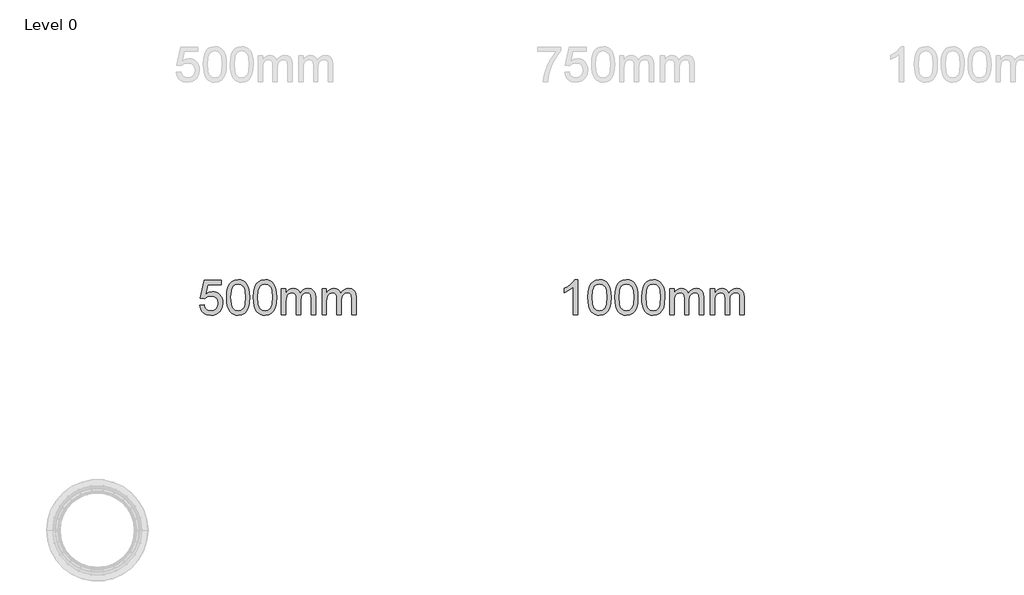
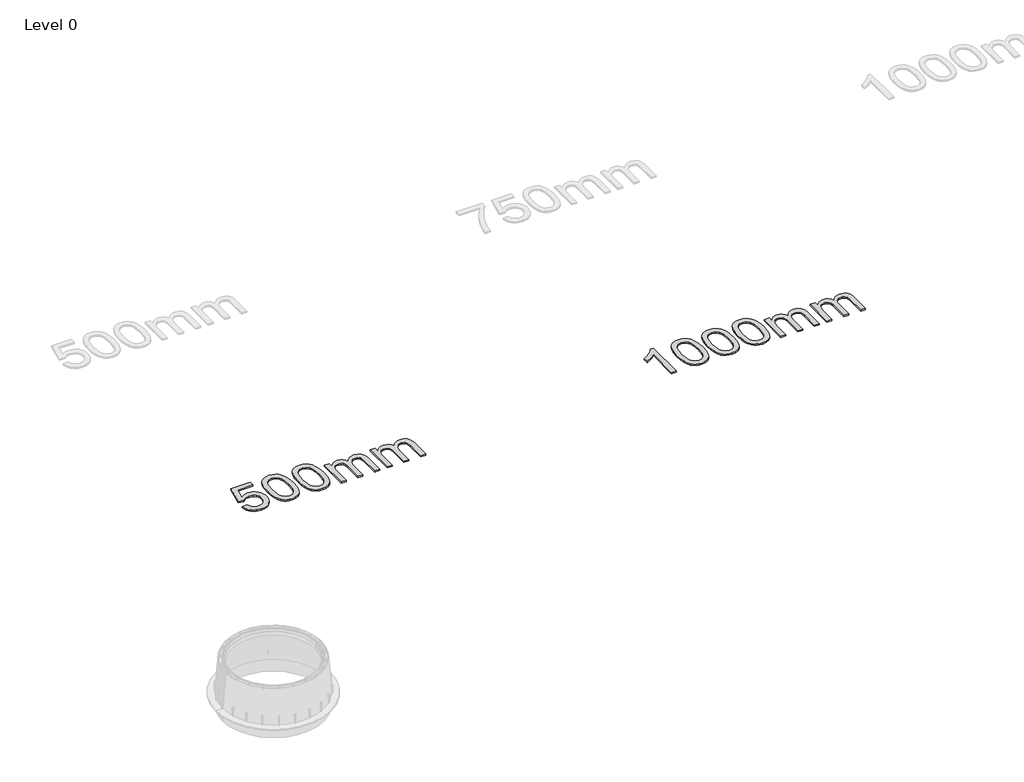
# One storey, part 14 of 25: 2 proxies.
"""IFC4 building model written with IfcOpenShell, lengths in millimetres."""

from ifc_helpers import new_model, si_unit, origin, origin_with_axes, place, context, project, spatial, polyline, outline, extrude, element, save

model = new_model("IFC4")

# Units and contexts
model_context = context("Model", 3, world=origin())
ifc_project = project(units=[si_unit("LENGTHUNIT", "METRE", prefix="MILLI")], contexts=[model_context])

# Site, building, storey
site = spatial("IfcSite", under=ifc_project)
building = spatial("IfcBuilding", under=site)
storey = spatial("IfcBuildingStorey", under=building, Name="Level 0", Elevation=0.0)

# Proxies
placement = place(None, origin())
element("IfcBuildingElementProxy", 1, Name="300mm Arial", ObjectType="300mm Arial", at=placement, inside=storey, context=model_context, shape_type="SweptSolid", body=[
    extrude(outline(polyline([(607.9461268, -120.925676), (645.6172432, -116.2167865), (652.5334247, -138.8323321), (664.5999541, -155.028337), (681.7616492, -164.7680128), (703.9633276, -168.0145714), (730.965866, -163.4988199), (751.1993758, -149.9515654), (763.8361223, -128.9363065), (768.0483711, -102.0165415), (764.1028367, -76.669472), (752.2662336, -57.2820909), (732.4465911, -44.9764381), (704.5519388, -40.8745539), (686.2774007, -42.5116288), (671.4793474, -47.4228534), (650.3261327, -64.4190016), (612.6550164, -59.710112), (645.6172432, 95.6832427), (791.5928188, 95.6832427), (791.5928188, 58.0121264), (676.0778724, 58.0121264), (659.964641, -24.9820517), (686.8752089, -8.6480911), (715.0733638, -3.2034376), (733.4191791, -4.8910962), (750.2704737, -9.9540722), (765.6272478, -18.3923654), (779.4895012, -30.205976), (790.9651202, -44.6729355), (799.1619909, -61.0712754), (804.0801133, -79.4009958), (805.7194875, -99.6620967), (799.8149814, -137.333213), (792.4343489, -154.1270261), (782.1014634, -169.5596758), (766.4480845, -185.364806), (748.1827434, -196.6541847), (727.3054402, -203.427812), (703.8161748, -205.6856877), (666.8164431, -199.8823492), (651.1377723, -192.6281762), (637.3398983, -182.4723338), (625.8596807, -169.92066), (617.1339797, -155.4789924), (607.9461268, -120.925676)])), origin_with_axes(), (0.0, 0.0, 1.0), 10.0),
    extrude(outline(polyline([(838.6817142, -52.7203541), (841.4500262, -4.4818275), (849.7549623, 33.9894321), (863.5137489, 63.282036), (882.6436126, 83.9845953), (907.2825093, 96.290248), (937.5683945, 100.3921323), (960.7817484, 97.9641111), (981.5670811, 90.6800476), (998.9495054, 78.8250503), (1011.9541339, 62.6842278), (1021.7765832, 42.3955357), (1029.6124697, 18.0969299), (1034.7444235, -12.7591724), (1036.4550748, -52.7203541), (1033.714354, -100.6829692), (1025.4921914, -139.0622584), (1011.8161782, -168.3824534), (992.7139056, -189.1677861), (968.0198267, -201.5562123), (937.5683945, -205.6856877), (916.81985, -203.892263), (898.4257502, -198.5119888), (882.3860952, -189.5448652), (868.700885, -176.9908921), (855.5674978, -154.2971715), (846.1865069, -126.0208417), (840.5579124, -92.1619025), (838.6817142, -52.7203541)]), holes=[polyline([(876.3528305, -52.6467777), (880.7674145, -111.9033701), (886.2856444, -132.1713688), (894.0111663, -146.1991691), (913.7296412, -162.5607208), (937.5683945, -168.0145714), (961.4071478, -162.5423267), (981.1256228, -146.1255927), (988.8511447, -132.0747997), (994.3693746, -111.8113996), (998.7839585, -52.6467777), (994.5165274, 5.2762424), (989.1822384, 25.4775625), (981.7142339, 39.8387559), (962.0325472, 57.0004509), (937.1269361, 62.721016), (913.5457002, 57.6810326), (894.5997775, 42.5610826), (886.6167382, 26.9260978), (880.9145673, 5.8464595), (876.3528305, -52.6467777)])]), origin_with_axes(), (0.0, 0.0, 1.0), 10.0),
    extrude(outline(polyline([(1069.4173016, -52.7203541), (1072.1856136, -4.4818275), (1080.4905496, 33.9894321), (1094.2493363, 63.282036), (1113.3792, 83.9845953), (1138.0180966, 96.290248), (1168.3039819, 100.3921323), (1191.5173358, 97.9641111), (1212.3026685, 90.6800476), (1229.6850928, 78.8250503), (1242.6897213, 62.6842278), (1252.5121706, 42.3955357), (1260.3480571, 18.0969299), (1265.4800109, -12.7591724), (1267.1906622, -52.7203541), (1264.4499413, -100.6829692), (1256.2277787, -139.0622584), (1242.5517656, -168.3824534), (1223.449493, -189.1677861), (1198.755414, -201.5562123), (1168.3039819, -205.6856877), (1147.5554374, -203.892263), (1129.1613376, -198.5119888), (1113.1216826, -189.5448652), (1099.4364724, -176.9908921), (1086.3030852, -154.2971715), (1076.9220943, -126.0208417), (1071.2934998, -92.1619025), (1069.4173016, -52.7203541)]), holes=[polyline([(1107.0884179, -52.6467777), (1111.5030018, -111.9033701), (1117.0212318, -132.1713688), (1124.7467537, -146.1991691), (1144.4652286, -162.5607208), (1168.3039819, -168.0145714), (1192.1427352, -162.5423267), (1211.8612101, -146.1255927), (1219.586732, -132.0747997), (1225.104962, -111.8113996), (1229.5195459, -52.6467777), (1225.2521148, 5.2762424), (1219.9178258, 25.4775625), (1212.4498213, 39.8387559), (1192.7681346, 57.0004509), (1167.8625235, 62.721016), (1144.2812876, 57.6810326), (1125.3353649, 42.5610826), (1117.3523256, 26.9260978), (1111.6501546, 5.8464595), (1107.0884179, -52.6467777)])]), origin_with_axes(), (0.0, 0.0, 1.0), 10.0),
    extrude(outline(polyline([(1309.570668, -200.9767982), (1309.570668, 20.3410101), (1347.2417844, 20.3410101), (1347.2417844, -16.0793074), (1358.5725498, 0.6501263), (1373.1406768, 13.7559224), (1390.4495247, 22.2264053), (1410.0024527, 25.0498997), (1430.9533324, 22.171223), (1447.7471454, 13.5351932), (1460.2919215, -0.2879728), (1468.49569, -18.7280578), (1482.2268854, 0.4247986), (1497.8894614, 14.1054103), (1515.4834178, 22.3137773), (1535.0087547, 25.0498997), (1563.3264713, 20.49736), (1584.2681538, 6.8397409), (1597.208403, -16.2908395), (1601.5218194, -49.2622634), (1601.5218194, -200.9767982), (1563.8507031, -200.9767982), (1563.8507031, -65.4490712), (1560.3558242, -33.9951606), (1555.4445995, -25.3223425), (1547.7006835, -18.5073286), (1537.7402785, -14.0927446), (1526.1795868, -12.6212166), (1505.7713331, -16.3920071), (1489.1338699, -27.7043784), (1478.0698189, -47.3308829), (1474.3818019, -76.0440726), (1474.3818019, -200.9767982), (1436.7106856, -200.9767982), (1436.7106856, -61.2552164), (1434.5309848, -39.9548489), (1427.9918823, -24.7613225), (1416.4863729, -15.6562431), (1399.4074513, -12.6212166), (1384.8945066, -14.6445676), (1371.521996, -20.7146205), (1360.4855362, -30.6842226), (1352.9807435, -44.406221), (1348.6765241, -63.4441143), (1347.2417844, -89.3614008), (1347.2417844, -200.9767982), (1309.570668, -200.9767982)])), origin_with_axes(), (0.0, 0.0, 1.0), 10.0),
    extrude(outline(polyline([(1658.0284939, -200.9767982), (1658.0284939, 20.3410101), (1695.6996102, 20.3410101), (1695.6996102, -16.0793074), (1707.0303756, 0.6501263), (1721.5985026, 13.7559224), (1738.9073505, 22.2264053), (1758.4602786, 25.0498997), (1779.4111582, 22.171223), (1796.2049713, 13.5351932), (1808.7497473, -0.2879728), (1816.9535158, -18.7280578), (1830.6847113, 0.4247986), (1846.3472872, 14.1054103), (1863.9412436, 22.3137773), (1883.4665805, 25.0498997), (1911.7842971, 20.49736), (1932.7259797, 6.8397409), (1945.6662289, -16.2908395), (1949.9796452, -49.2622634), (1949.9796452, -200.9767982), (1912.3085289, -200.9767982), (1912.3085289, -65.4490712), (1908.81365, -33.9951606), (1903.9024254, -25.3223425), (1896.1585094, -18.5073286), (1886.1981043, -14.0927446), (1874.6374126, -12.6212166), (1854.229159, -16.3920071), (1837.5916957, -27.7043784), (1826.5276447, -47.3308829), (1822.8396277, -76.0440726), (1822.8396277, -200.9767982), (1785.1685114, -200.9767982), (1785.1685114, -61.2552164), (1782.9888106, -39.9548489), (1776.4497081, -24.7613225), (1764.9441987, -15.6562431), (1747.8652771, -12.6212166), (1733.3523324, -14.6445676), (1719.9798219, -20.7146205), (1708.943362, -30.6842226), (1701.4385693, -44.406221), (1697.13435, -63.4441143), (1695.6996102, -89.3614008), (1695.6996102, -200.9767982), (1658.0284939, -200.9767982)])), origin_with_axes(), (0.0, 0.0, 1.0), 10.0),
])
element("IfcBuildingElementProxy", 2, Name="300mm Arial", ObjectType="300mm Arial", at=placement, inside=storey, context=model_context, shape_type="SweptSolid", body=[
    extrude(outline(polyline([(3849.9277278, -200.9767982), (3812.2566115, -200.9767982), (3812.2566115, 33.8790675), (3776.572058, 8.4584217), (3736.9143789, -10.5610775), (3736.9143789, 25.0498997), (3766.5012884, 41.1447369), (3792.1334664, 60.2929948), (3812.339385, 80.6552632), (3825.6475161, 100.3921323), (3849.9277278, 100.3921323), (3849.9277278, -200.9767982)])), origin_with_axes(), (0.0, 0.0, 1.0), 10.0),
    extrude(outline(polyline([(3939.396629, -52.7203541), (3942.1649411, -4.4818275), (3950.4698771, 33.9894321), (3964.2286637, 63.282036), (3983.3585275, 83.9845953), (4007.9974241, 96.290248), (4038.2833093, 100.3921323), (4061.4966632, 97.9641111), (4082.281996, 90.6800476), (4099.6644202, 78.8250503), (4112.6690488, 62.6842278), (4122.491498, 42.3955357), (4130.3273845, 18.0969299), (4135.4593384, -12.7591724), (4137.1699896, -52.7203541), (4134.4292688, -100.6829692), (4126.2071062, -139.0622584), (4112.531093, -168.3824534), (4093.4288204, -189.1677861), (4068.7347415, -201.5562123), (4038.2833093, -205.6856877), (4017.5347648, -203.892263), (3999.1406651, -198.5119888), (3983.1010101, -189.5448652), (3969.4157998, -176.9908921), (3956.2824126, -154.2971715), (3946.9014217, -126.0208417), (3941.2728272, -92.1619025), (3939.396629, -52.7203541)]), holes=[polyline([(3977.0677453, -52.6467777), (3981.4823293, -111.9033701), (3987.0005592, -132.1713688), (3994.7260811, -146.1991691), (4014.4445561, -162.5607208), (4038.2833093, -168.0145714), (4062.1220626, -162.5423267), (4081.8405376, -146.1255927), (4089.5660595, -132.0747997), (4095.0842894, -111.8113996), (4099.4988733, -52.6467777), (4095.2314422, 5.2762424), (4089.8971533, 25.4775625), (4082.4291488, 39.8387559), (4062.747462, 57.0004509), (4037.841851, 62.721016), (4014.2606151, 57.6810326), (3995.3146923, 42.5610826), (3987.331653, 26.9260978), (3981.6294821, 5.8464595), (3977.0677453, -52.6467777)])]), origin_with_axes(), (0.0, 0.0, 1.0), 10.0),
    extrude(outline(polyline([(4170.1322164, -52.7203541), (4172.9005284, -4.4818275), (4181.2054645, 33.9894321), (4194.9642511, 63.282036), (4214.0941148, 83.9845953), (4238.7330115, 96.290248), (4269.0188967, 100.3921323), (4292.2322506, 97.9641111), (4313.0175833, 90.6800476), (4330.4000076, 78.8250503), (4343.4046361, 62.6842278), (4353.2270854, 42.3955357), (4361.0629719, 18.0969299), (4366.1949257, -12.7591724), (4367.905577, -52.7203541), (4365.1648562, -100.6829692), (4356.9426936, -139.0622584), (4343.2666804, -168.3824534), (4324.1644078, -189.1677861), (4299.4703289, -201.5562123), (4269.0188967, -205.6856877), (4248.2703522, -203.892263), (4229.8762524, -198.5119888), (4213.8365974, -189.5448652), (4200.1513872, -176.9908921), (4187.018, -154.2971715), (4177.6370091, -126.0208417), (4172.0084146, -92.1619025), (4170.1322164, -52.7203541)]), holes=[polyline([(4207.8033327, -52.6467777), (4212.2179167, -111.9033701), (4217.7361466, -132.1713688), (4225.4616685, -146.1991691), (4245.1801434, -162.5607208), (4269.0188967, -168.0145714), (4292.85765, -162.5423267), (4312.576125, -146.1255927), (4320.3016468, -132.0747997), (4325.8198768, -111.8113996), (4330.2344607, -52.6467777), (4325.9670296, 5.2762424), (4320.6327406, 25.4775625), (4313.1647361, 39.8387559), (4293.4830494, 57.0004509), (4268.5774383, 62.721016), (4244.9962024, 57.6810326), (4226.0502797, 42.5610826), (4218.0672404, 26.9260978), (4212.3650695, 5.8464595), (4207.8033327, -52.6467777)])]), origin_with_axes(), (0.0, 0.0, 1.0), 10.0),
    extrude(outline(polyline([(4400.8678038, -52.7203541), (4403.6361158, -4.4818275), (4411.9410518, 33.9894321), (4425.6998385, 63.282036), (4444.8297022, 83.9845953), (4469.4685988, 96.290248), (4499.7544841, 100.3921323), (4522.967838, 97.9641111), (4543.7531707, 90.6800476), (4561.135595, 78.8250503), (4574.1402235, 62.6842278), (4583.9626728, 42.3955357), (4591.7985593, 18.0969299), (4596.9305131, -12.7591724), (4598.6411644, -52.7203541), (4595.9004435, -100.6829692), (4587.6782809, -139.0622584), (4574.0022678, -168.3824534), (4554.8999952, -189.1677861), (4530.2059162, -201.5562123), (4499.7544841, -205.6856877), (4479.0059396, -203.892263), (4460.6118398, -198.5119888), (4444.5721848, -189.5448652), (4430.8869746, -176.9908921), (4417.7535874, -154.2971715), (4408.3725965, -126.0208417), (4402.744002, -92.1619025), (4400.8678038, -52.7203541)]), holes=[polyline([(4438.5389201, -52.6467777), (4442.953504, -111.9033701), (4448.471734, -132.1713688), (4456.1972559, -146.1991691), (4475.9157308, -162.5607208), (4499.7544841, -168.0145714), (4523.5932374, -162.5423267), (4543.3117123, -146.1255927), (4551.0372342, -132.0747997), (4556.5554642, -111.8113996), (4560.9700481, -52.6467777), (4556.7026169, 5.2762424), (4551.368328, 25.4775625), (4543.9003235, 39.8387559), (4524.2186368, 57.0004509), (4499.3130257, 62.721016), (4475.7317898, 57.6810326), (4456.7858671, 42.5610826), (4448.8028278, 26.9260978), (4443.1006568, 5.8464595), (4438.5389201, -52.6467777)])]), origin_with_axes(), (0.0, 0.0, 1.0), 10.0),
    extrude(outline(polyline([(4641.0211702, -200.9767982), (4641.0211702, 20.3410101), (4678.6922866, 20.3410101), (4678.6922866, -16.0793074), (4690.023052, 0.6501263), (4704.591179, 13.7559224), (4721.9000269, 22.2264053), (4741.4529549, 25.0498997), (4762.4038346, 22.171223), (4779.1976476, 13.5351932), (4791.7424237, -0.2879728), (4799.9461922, -18.7280578), (4813.6773876, 0.4247986), (4829.3399636, 14.1054103), (4846.93392, 22.3137773), (4866.4592569, 25.0498997), (4894.7769735, 20.49736), (4915.718656, 6.8397409), (4928.6589052, -16.2908395), (4932.9723216, -49.2622634), (4932.9723216, -200.9767982), (4895.3012053, -200.9767982), (4895.3012053, -65.4490712), (4891.8063264, -33.9951606), (4886.8951017, -25.3223425), (4879.1511857, -18.5073286), (4869.1907807, -14.0927446), (4857.630089, -12.6212166), (4837.2218353, -16.3920071), (4820.5843721, -27.7043784), (4809.5203211, -47.3308829), (4805.8323041, -76.0440726), (4805.8323041, -200.9767982), (4768.1611878, -200.9767982), (4768.1611878, -61.2552164), (4765.981487, -39.9548489), (4759.4423845, -24.7613225), (4747.9368751, -15.6562431), (4730.8579535, -12.6212166), (4716.3450088, -14.6445676), (4702.9724982, -20.7146205), (4691.9360384, -30.6842226), (4684.4312457, -44.406221), (4680.1270263, -63.4441143), (4678.6922866, -89.3614008), (4678.6922866, -200.9767982), (4641.0211702, -200.9767982)])), origin_with_axes(), (0.0, 0.0, 1.0), 10.0),
    extrude(outline(polyline([(4989.4789961, -200.9767982), (4989.4789961, 20.3410101), (5027.1501124, 20.3410101), (5027.1501124, -16.0793074), (5038.4808778, 0.6501263), (5053.0490048, 13.7559224), (5070.3578527, 22.2264053), (5089.9107808, 25.0498997), (5110.8616604, 22.171223), (5127.6554735, 13.5351932), (5140.2002495, -0.2879728), (5148.404018, -18.7280578), (5162.1352135, 0.4247986), (5177.7977894, 14.1054103), (5195.3917458, 22.3137773), (5214.9170827, 25.0498997), (5243.2347993, 20.49736), (5264.1764819, 6.8397409), (5277.1167311, -16.2908395), (5281.4301474, -49.2622634), (5281.4301474, -200.9767982), (5243.7590311, -200.9767982), (5243.7590311, -65.4490712), (5240.2641522, -33.9951606), (5235.3529276, -25.3223425), (5227.6090116, -18.5073286), (5217.6486065, -14.0927446), (5206.0879148, -12.6212166), (5185.6796612, -16.3920071), (5169.0421979, -27.7043784), (5157.9781469, -47.3308829), (5154.2901299, -76.0440726), (5154.2901299, -200.9767982), (5116.6190136, -200.9767982), (5116.6190136, -61.2552164), (5114.4393128, -39.9548489), (5107.9002103, -24.7613225), (5096.3947009, -15.6562431), (5079.3157793, -12.6212166), (5064.8028346, -14.6445676), (5051.4303241, -20.7146205), (5040.3938642, -30.6842226), (5032.8890715, -44.406221), (5028.5848522, -63.4441143), (5027.1501124, -89.3614008), (5027.1501124, -200.9767982), (4989.4789961, -200.9767982)])), origin_with_axes(), (0.0, 0.0, 1.0), 10.0),
])

save(model, "model.ifc")
